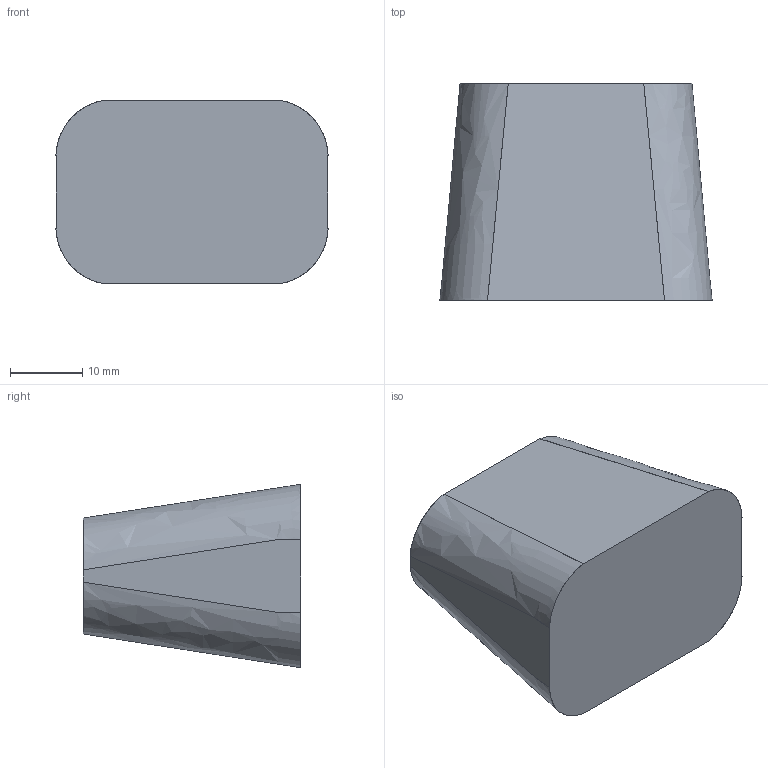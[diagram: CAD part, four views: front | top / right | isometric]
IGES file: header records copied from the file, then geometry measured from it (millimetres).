
Start section: Data from Parasolid IGES Translator 15.0.47, Copyright(c) 2006 Siemens P LM Software. All Rights Reserved.
Global section: file name: 9132313.igs; native system:  By UGS Corp.; preprocessor: XPlus GENERIC/IGES 3.0; author: Noname; organization: Noname; date: 20140122.163445; units: millimetre
Bounding box: 37.56 x 30 x 25.3 mm (x, y, z)
Surface area: 4529.3 mm2 (no closed solid volume)
Topology: 0 solids, 0 shells, 18 faces, 84 edges, 82 vertices
Faces by surface type: extrusion 12, revolution 6
